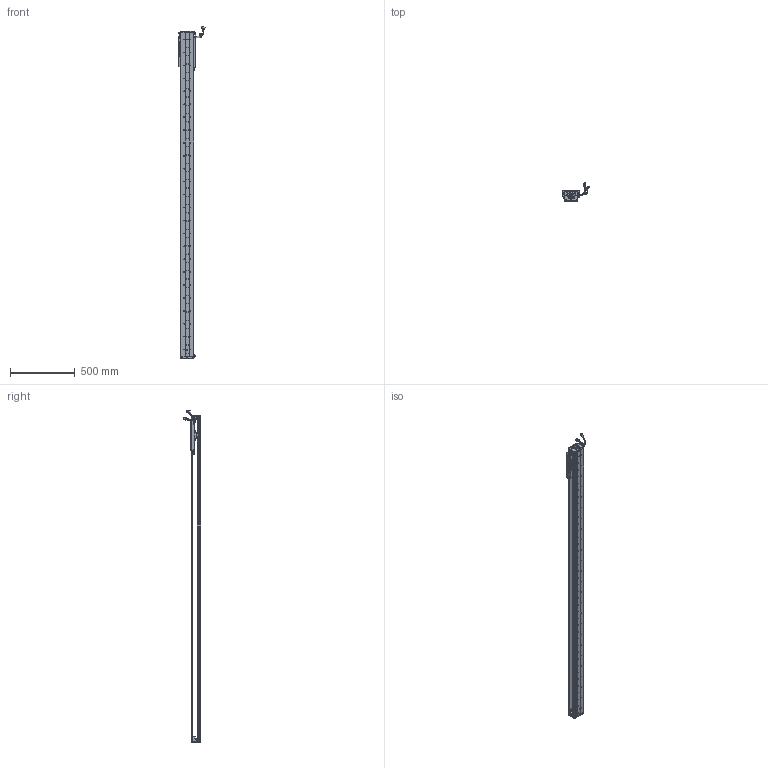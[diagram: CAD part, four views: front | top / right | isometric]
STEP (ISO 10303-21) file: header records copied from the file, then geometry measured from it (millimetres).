
FILE_DESCRIPTION (( 'STEP AP203' ), '1' );
FILE_NAME ('Z3-RY100D-1-L500-B-K.SLDASM_2200.step', '2021-05-17T02:51:58', ( '盈信电脑' ), ( '东莞市道滘镇水果街19号' ), 'SwSTEP 2.0', 'SolidWorks 2016', '' );
FILE_SCHEMA (( 'CONFIG_CONTROL_DESIGN' ));
Length unit declared in the file: millimetre
Products named in the file (36): COVER; Z-RY100D詩湍狟揤裔; HARNESS-Part-2; SCREW-M1.6; 100-Z-臏賑輸盄裔(21遴); PBU_SHEET; SCALE; 080黍杅芛假蚾釱21遴; SHIELDPLATE; HARNESS-Part-1; SEAL-Part-1; SCREW-M1.6-1; Z-RY100D覜茼んえ; SCALE-Part-1; 榋妏寠巭燃_暯_M2_2; PSLH080_PSLF2; Z-RY100D詩湍奻揤裔; SCREW-M1.7-1; 140雄赽晤鎢ん堤盄; Z-100詩湍傷裔啣; LABEL; HOLDER0; 覜茼ん672; Z3-RY100-L500詩湍90mm遵_2200; SCREW-M1.7; COVER-Part-1; SCREW-M1.6-3; 140蚥薯蝶輸; SEAL; LABEL-Part-1; SCALE-Part-2; Z3-RY100D-500-倰第菁釱_2200; HARNESS; SCREW-M1.6-2; Z3-RY100D-1-L500-B-K.SLDASM_2200; Z3-RY100铝滑块（21款）
Assembly tree (43 placements, depth 4):
  Z3-RY100D-1-L500-B-K.SLDASM_2200
    Z3-RY100D-500-倰第菁釱_2200
    Z3-RY100铝滑块（21款）
    PSLH080_PSLF2
      SCALE
        SCALE-Part-1
        SCALE-Part-2
      HARNESS
        HARNESS-Part-1
        HARNESS-Part-2
      LABEL
        LABEL-Part-1
      COVER
        COVER-Part-1
      SEAL
        SEAL-Part-1
      榋妏寠巭燃_暯_M2_2
      SHIELDPLATE
      SCREW-M1.7
      SCREW-M1.7-1
      PBU_SHEET
      SCREW-M1.6
      SCREW-M1.6-1
      SCREW-M1.6-2
      SCREW-M1.6-3
      HOLDER0
    080黍杅芛假蚾釱21遴
    Z-100詩湍傷裔啣  x2
    140蚥薯蝶輸  x2
    覜茼ん672  x3
    Z-RY100D覜茼んえ  x3
    100-Z-臏賑輸盄裔(21遴)
    140雄赽晤鎢ん堤盄
    Z3-RY100-L500詩湍90mm遵_2200
    Z-RY100D詩湍狟揤裔  x2
    Z-RY100D詩湍奻揤裔  x2
Bounding box: 205.84 x 136.11 x 2570.43 mm (x, y, z)
Volume: 4736140.3 mm3; surface area: 1862332.2 mm2
Topology: 38 solids, 38 shells, 2977 faces, 8101 edges, 5168 vertices
Faces by surface type: cylinder 1450, plane 1179, cone 226, torus 69, bspline 53
Entity records: 85807 total; most frequent: CARTESIAN_POINT 17973, DIRECTION 13823, ORIENTED_EDGE 13082, EDGE_CURVE 6541, AXIS2_PLACEMENT_3D 5190, VERTEX_POINT 4236, LINE 3443, VECTOR 3443
